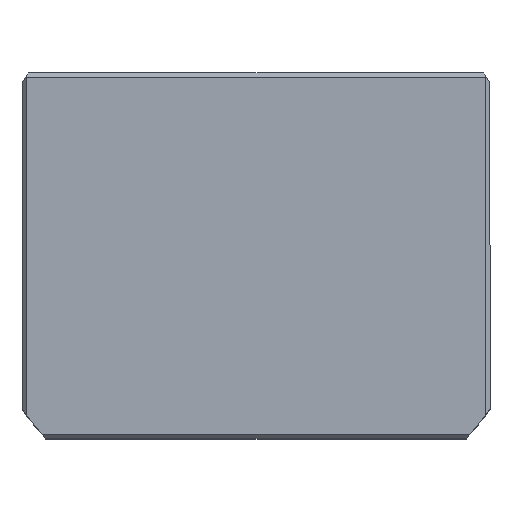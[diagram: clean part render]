
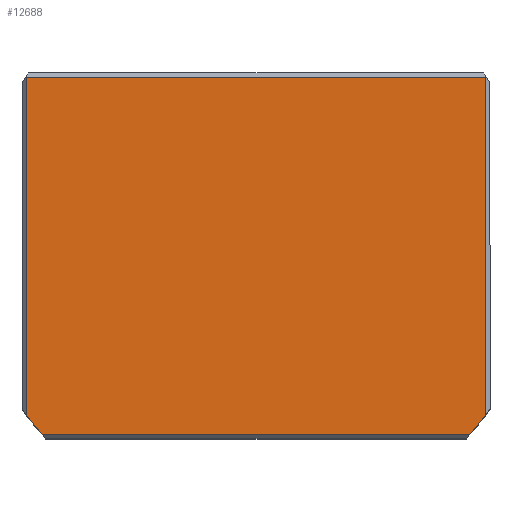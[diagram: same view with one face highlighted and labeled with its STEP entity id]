
A CAD part, top view. The second image highlights one B-rep face of the part: STEP entity #12688.
In plain terms, the highlighted planar face has unit normal (0, 0, 1) as drawn and (0, 0, -1) by its records, which use the part's own axes.
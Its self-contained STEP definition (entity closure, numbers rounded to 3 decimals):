
#577 = DIRECTION ( 'NONE',  ( 1., 0., 0. ) ) ;
#2959 = CARTESIAN_POINT ( 'NONE',  ( 56., 38.661, 0. ) ) ;
#3096 = CARTESIAN_POINT ( 'NONE',  ( 56., -43.5, 0. ) ) ;
#4168 = DIRECTION ( 'NONE',  ( 1., 0., 0. ) ) ;
#4228 = VECTOR ( 'NONE', #4168, 1000. ) ;
#4384 = CARTESIAN_POINT ( 'NONE',  ( -56., 38.661, 0. ) ) ;
#4502 = EDGE_CURVE ( 'NONE', #6344, #17421, #18348, .T. ) ;
#4734 = CARTESIAN_POINT ( 'NONE',  ( -52.098, 43.5, 0. ) ) ;
#4862 = ORIENTED_EDGE ( 'NONE', *, *, #12849, .F. ) ;
#5243 = LINE ( 'NONE', #14365, #12979 ) ;
#6257 = EDGE_CURVE ( 'NONE', #16278, #17421, #15844, .T. ) ;
#6344 = VERTEX_POINT ( 'NONE', #4734 ) ;
#6362 = FACE_OUTER_BOUND ( 'NONE', #14204, .T. ) ;
#6763 = DIRECTION ( 'NONE',  ( 0., 0., 1. ) ) ;
#7233 = VERTEX_POINT ( 'NONE', #4384 ) ;
#7265 = VECTOR ( 'NONE', #12645, 1000. ) ;
#7618 = DIRECTION ( 'NONE',  ( 0., 0., 1. ) ) ;
#7822 = ORIENTED_EDGE ( 'NONE', *, *, #15002, .T. ) ;
#9324 = DIRECTION ( 'NONE',  ( 0., 0., 1. ) ) ;
#9669 = CARTESIAN_POINT ( 'NONE',  ( 0., -43.5, 0. ) ) ;
#9908 = AXIS2_PLACEMENT_3D ( 'NONE', #16530, #9324, #577 ) ;
#10241 = VECTOR ( 'NONE', #14569, 1000. ) ;
#10890 = AXIS2_PLACEMENT_3D ( 'NONE', #15489, #6763, #16949 ) ;
#11511 = CARTESIAN_POINT ( 'NONE',  ( 0., 43.5, 0. ) ) ;
#11581 = LINE ( 'NONE', #9669, #7265 ) ;
#12257 = AXIS2_PLACEMENT_3D ( 'NONE', #16335, #7618, #17791 ) ;
#12268 = ORIENTED_EDGE ( 'NONE', *, *, #12375, .T. ) ;
#12375 = EDGE_CURVE ( 'NONE', #16278, #12537, #14093, .T. ) ;
#12537 = VERTEX_POINT ( 'NONE', #3096 ) ;
#12645 = DIRECTION ( 'NONE',  ( -1., 0., 0. ) ) ;
#12688 = ADVANCED_FACE ( 'NONE', ( #6362 ), #18049, .F. ) ;
#12849 = EDGE_CURVE ( 'NONE', #6344, #7233, #16167, .T. ) ;
#12979 = VECTOR ( 'NONE', #17161, 1000. ) ;
#13098 = CARTESIAN_POINT ( 'NONE',  ( 56., 0., 0. ) ) ;
#13645 = CARTESIAN_POINT ( 'NONE',  ( 52.098, 43.5, 0. ) ) ;
#14093 = LINE ( 'NONE', #13098, #10241 ) ;
#14204 = EDGE_LOOP ( 'NONE', ( #15242, #12268, #16603, #7822, #4862, #16920 ) ) ;
#14365 = CARTESIAN_POINT ( 'NONE',  ( -56., 0., 0. ) ) ;
#14383 = CARTESIAN_POINT ( 'NONE',  ( -56., -43.5, 0. ) ) ;
#14569 = DIRECTION ( 'NONE',  ( 0., -1., 0. ) ) ;
#15002 = EDGE_CURVE ( 'NONE', #18817, #7233, #5243, .T. ) ;
#15242 = ORIENTED_EDGE ( 'NONE', *, *, #6257, .F. ) ;
#15489 = CARTESIAN_POINT ( 'NONE',  ( 0., -2.5, 0. ) ) ;
#15844 = CIRCLE ( 'NONE', #12257, 69.5 ) ;
#16167 = CIRCLE ( 'NONE', #10890, 69.5 ) ;
#16278 = VERTEX_POINT ( 'NONE', #2959 ) ;
#16335 = CARTESIAN_POINT ( 'NONE',  ( 0., -2.5, 0. ) ) ;
#16530 = CARTESIAN_POINT ( 'NONE',  ( 0., 0., 0. ) ) ;
#16603 = ORIENTED_EDGE ( 'NONE', *, *, #18566, .T. ) ;
#16920 = ORIENTED_EDGE ( 'NONE', *, *, #4502, .T. ) ;
#16949 = DIRECTION ( 'NONE',  ( 1., 0., 0. ) ) ;
#17161 = DIRECTION ( 'NONE',  ( 0., 1., 0. ) ) ;
#17421 = VERTEX_POINT ( 'NONE', #13645 ) ;
#17791 = DIRECTION ( 'NONE',  ( 1., 0., 0. ) ) ;
#18049 = PLANE ( 'NONE',  #9908 ) ;
#18348 = LINE ( 'NONE', #11511, #4228 ) ;
#18566 = EDGE_CURVE ( 'NONE', #12537, #18817, #11581, .T. ) ;
#18817 = VERTEX_POINT ( 'NONE', #14383 ) ;
